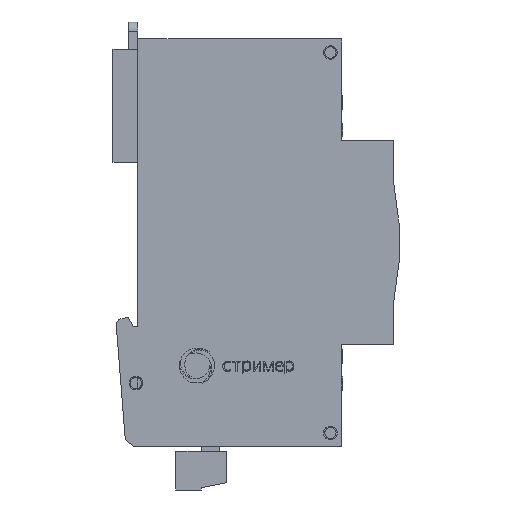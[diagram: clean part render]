
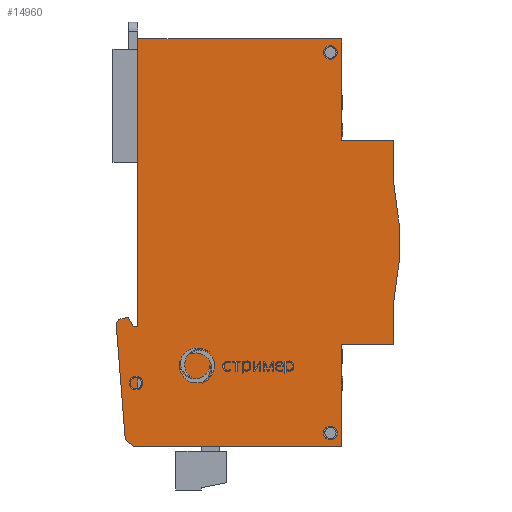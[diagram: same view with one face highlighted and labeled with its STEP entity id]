
A CAD part, front view. The second image highlights one B-rep face of the part: STEP entity #14960.
In plain terms, the highlighted planar face has unit normal (0, -1, 0).
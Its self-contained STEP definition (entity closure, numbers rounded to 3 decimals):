
#13671=CARTESIAN_POINT('',(-14.5,-13.,45.));
#13672=VERTEX_POINT('',#13671);
#13679=CARTESIAN_POINT('',(30.5,-13.,45.));
#13680=VERTEX_POINT('',#13679);
#13681=CARTESIAN_POINT('',(-14.5,-13.,45.));
#13682=DIRECTION('',(1.,-0.,-0.));
#13683=VECTOR('',#13682,45.);
#13684=LINE('',#13681,#13683);
#13685=EDGE_CURVE('',#13672,#13680,#13684,.T.);
#13791=CARTESIAN_POINT('',(-14.5,-13.,-18.5));
#13792=VERTEX_POINT('',#13791);
#13799=CARTESIAN_POINT('',(-14.5,-13.,-18.5));
#13800=DIRECTION('',(-0.,-0.,1.));
#13801=VECTOR('',#13800,63.5);
#13802=LINE('',#13799,#13801);
#13803=EDGE_CURVE('',#13792,#13672,#13802,.T.);
#13996=CARTESIAN_POINT('',(-15.5,-13.,-45.));
#13997=VERTEX_POINT('',#13996);
#14004=CARTESIAN_POINT('',(-17.29,-13.,-43.498));
#14005=VERTEX_POINT('',#14004);
#14006=CARTESIAN_POINT('',(-15.5,-13.,-45.));
#14007=DIRECTION('',(-0.766,-0.,0.643));
#14008=VECTOR('',#14007,2.337);
#14009=LINE('',#14006,#14008);
#14010=EDGE_CURVE('',#13997,#14005,#14009,.T.);
#14035=CARTESIAN_POINT('',(-19.273,-13.,-18.306));
#14036=VERTEX_POINT('',#14035);
#14037=CARTESIAN_POINT('',(-17.29,-13.,-43.498));
#14038=DIRECTION('',(-0.078,-0.,0.997));
#14039=VECTOR('',#14038,25.27);
#14040=LINE('',#14037,#14039);
#14041=EDGE_CURVE('',#14005,#14036,#14040,.T.);
#14067=CARTESIAN_POINT('',(-17.999,-13.,-16.704));
#14068=VERTEX_POINT('',#14067);
#14069=CARTESIAN_POINT('',(-17.777,-13.,-18.188));
#14070=DIRECTION('',(0.,1.,0.));
#14071=DIRECTION('',(0.,-0.,1.));
#14072=AXIS2_PLACEMENT_3D('',#14069,#14070,#14071);
#14073=CIRCLE('',#14072,1.5);
#14074=EDGE_CURVE('',#14036,#14068,#14073,.T.);
#14099=CARTESIAN_POINT('',(-16.632,-13.,-16.5));
#14100=VERTEX_POINT('',#14099);
#14101=CARTESIAN_POINT('',(-17.999,-13.,-16.704));
#14102=DIRECTION('',(0.989,-0.,0.148));
#14103=VECTOR('',#14102,1.383);
#14104=LINE('',#14101,#14103);
#14105=EDGE_CURVE('',#14068,#14100,#14104,.T.);
#14130=CARTESIAN_POINT('',(-15.5,-13.,-18.5));
#14131=VERTEX_POINT('',#14130);
#14132=CARTESIAN_POINT('',(-16.632,-13.,-16.5));
#14133=DIRECTION('',(0.492,0.,-0.87));
#14134=VECTOR('',#14133,2.298);
#14135=LINE('',#14132,#14134);
#14136=EDGE_CURVE('',#14100,#14131,#14135,.T.);
#14183=CARTESIAN_POINT('',(-15.5,-13.,-18.5));
#14184=DIRECTION('',(1.,-0.,-0.));
#14185=VECTOR('',#14184,1.);
#14186=LINE('',#14183,#14185);
#14187=EDGE_CURVE('',#14131,#13792,#14186,.T.);
#14286=CARTESIAN_POINT('',(30.5,-13.,22.5));
#14287=VERTEX_POINT('',#14286);
#14288=CARTESIAN_POINT('',(30.5,-13.,45.));
#14289=DIRECTION('',(-0.,0.,-1.));
#14290=VECTOR('',#14289,22.5);
#14291=LINE('',#14288,#14290);
#14292=EDGE_CURVE('',#13680,#14287,#14291,.T.);
#14317=CARTESIAN_POINT('',(42.,-13.,22.5));
#14318=VERTEX_POINT('',#14317);
#14319=CARTESIAN_POINT('',(30.5,-13.,22.5));
#14320=DIRECTION('',(1.,-0.,-0.));
#14321=VECTOR('',#14320,11.5);
#14322=LINE('',#14319,#14321);
#14323=EDGE_CURVE('',#14287,#14318,#14322,.T.);
#14348=CARTESIAN_POINT('',(42.,-13.,13.));
#14349=VERTEX_POINT('',#14348);
#14350=CARTESIAN_POINT('',(42.,-13.,22.5));
#14351=DIRECTION('',(-0.,0.,-1.));
#14352=VECTOR('',#14351,9.5);
#14353=LINE('',#14350,#14352);
#14354=EDGE_CURVE('',#14318,#14349,#14353,.T.);
#14380=CARTESIAN_POINT('',(42.,-13.,-13.));
#14381=VERTEX_POINT('',#14380);
#14382=CARTESIAN_POINT('',(-21.707,-13.,-0.));
#14383=DIRECTION('',(0.,1.,0.));
#14384=DIRECTION('',(0.,-0.,1.));
#14385=AXIS2_PLACEMENT_3D('',#14382,#14383,#14384);
#14386=CIRCLE('',#14385,65.02);
#14387=EDGE_CURVE('',#14349,#14381,#14386,.T.);
#14412=CARTESIAN_POINT('',(42.,-13.,-22.5));
#14413=VERTEX_POINT('',#14412);
#14414=CARTESIAN_POINT('',(42.,-13.,-13.));
#14415=DIRECTION('',(-0.,0.,-1.));
#14416=VECTOR('',#14415,9.5);
#14417=LINE('',#14414,#14416);
#14418=EDGE_CURVE('',#14381,#14413,#14417,.T.);
#14443=CARTESIAN_POINT('',(30.5,-13.,-22.5));
#14444=VERTEX_POINT('',#14443);
#14445=CARTESIAN_POINT('',(42.,-13.,-22.5));
#14446=DIRECTION('',(-1.,-0.,-0.));
#14447=VECTOR('',#14446,11.5);
#14448=LINE('',#14445,#14447);
#14449=EDGE_CURVE('',#14413,#14444,#14448,.T.);
#14554=CARTESIAN_POINT('',(30.5,-13.,-45.));
#14555=VERTEX_POINT('',#14554);
#14556=CARTESIAN_POINT('',(30.5,-13.,-22.5));
#14557=DIRECTION('',(-0.,0.,-1.));
#14558=VECTOR('',#14557,22.5);
#14559=LINE('',#14556,#14558);
#14560=EDGE_CURVE('',#14444,#14555,#14559,.T.);
#14587=CARTESIAN_POINT('',(-14.5,-13.,-32.434));
#14588=VERTEX_POINT('',#14587);
#14595=CARTESIAN_POINT('',(-14.5,-13.,-29.566));
#14596=VERTEX_POINT('',#14595);
#14597=CARTESIAN_POINT('',(-14.94,-13.,-31.));
#14598=DIRECTION('',(0.,1.,0.));
#14599=DIRECTION('',(0.,-0.,1.));
#14600=AXIS2_PLACEMENT_3D('',#14597,#14598,#14599);
#14601=CIRCLE('',#14600,1.5);
#14602=EDGE_CURVE('',#14596,#14588,#14601,.T.);
#14618=CARTESIAN_POINT('',(28.,-13.,-40.5));
#14619=VERTEX_POINT('',#14618);
#14620=CARTESIAN_POINT('',(26.5,-13.,-42.));
#14621=VERTEX_POINT('',#14620);
#14622=CARTESIAN_POINT('',(28.,-13.,-42.));
#14623=DIRECTION('',(0.,1.,0.));
#14624=DIRECTION('',(0.,-0.,1.));
#14625=AXIS2_PLACEMENT_3D('',#14622,#14623,#14624);
#14626=CIRCLE('',#14625,1.5);
#14627=EDGE_CURVE('',#14619,#14621,#14626,.T.);
#14629=CARTESIAN_POINT('',(28.,-13.,-42.));
#14630=DIRECTION('',(0.,1.,0.));
#14631=DIRECTION('',(0.,-0.,1.));
#14632=AXIS2_PLACEMENT_3D('',#14629,#14630,#14631);
#14633=CIRCLE('',#14632,1.5);
#14634=EDGE_CURVE('',#14621,#14619,#14633,.T.);
#14664=CARTESIAN_POINT('',(28.,-13.,43.5));
#14665=VERTEX_POINT('',#14664);
#14666=CARTESIAN_POINT('',(26.5,-13.,42.));
#14667=VERTEX_POINT('',#14666);
#14668=CARTESIAN_POINT('',(28.,-13.,42.));
#14669=DIRECTION('',(0.,1.,0.));
#14670=DIRECTION('',(0.,-0.,1.));
#14671=AXIS2_PLACEMENT_3D('',#14668,#14669,#14670);
#14672=CIRCLE('',#14671,1.5);
#14673=EDGE_CURVE('',#14665,#14667,#14672,.T.);
#14675=CARTESIAN_POINT('',(28.,-13.,42.));
#14676=DIRECTION('',(0.,1.,0.));
#14677=DIRECTION('',(0.,-0.,1.));
#14678=AXIS2_PLACEMENT_3D('',#14675,#14676,#14677);
#14679=CIRCLE('',#14678,1.5);
#14680=EDGE_CURVE('',#14667,#14665,#14679,.T.);
#14896=CARTESIAN_POINT('',(30.5,-13.,-45.));
#14897=DIRECTION('',(-1.,-0.,-0.));
#14898=VECTOR('',#14897,46.);
#14899=LINE('',#14896,#14898);
#14900=EDGE_CURVE('',#14555,#13997,#14899,.T.);
#14920=CARTESIAN_POINT('',(0.,-13.,-0.));
#14921=DIRECTION('',(0.,1.,0.));
#14922=DIRECTION('',(0.,0.,-1.));
#14923=AXIS2_PLACEMENT_3D('',#14920,#14921,#14922);
#14924=PLANE('',#14923);
#14925=ORIENTED_EDGE('',*,*,#14602,.T.);
#14926=CARTESIAN_POINT('',(-14.5,-13.,-29.566));
#14927=DIRECTION('',(0.,0.,-1.));
#14928=VECTOR('',#14927,2.868);
#14929=LINE('',#14926,#14928);
#14930=EDGE_CURVE('',#14596,#14588,#14929,.T.);
#14931=ORIENTED_EDGE('',*,*,#14930,.F.);
#14932=EDGE_LOOP('',(#14925,#14931));
#14933=FACE_BOUND('',#14932,.T.);
#14934=ORIENTED_EDGE('',*,*,#14187,.F.);
#14935=ORIENTED_EDGE('',*,*,#14136,.F.);
#14936=ORIENTED_EDGE('',*,*,#14105,.F.);
#14937=ORIENTED_EDGE('',*,*,#14074,.F.);
#14938=ORIENTED_EDGE('',*,*,#14041,.F.);
#14939=ORIENTED_EDGE('',*,*,#14010,.F.);
#14940=ORIENTED_EDGE('',*,*,#14900,.F.);
#14941=ORIENTED_EDGE('',*,*,#14560,.F.);
#14942=ORIENTED_EDGE('',*,*,#14449,.F.);
#14943=ORIENTED_EDGE('',*,*,#14418,.F.);
#14944=ORIENTED_EDGE('',*,*,#14387,.F.);
#14945=ORIENTED_EDGE('',*,*,#14354,.F.);
#14946=ORIENTED_EDGE('',*,*,#14323,.F.);
#14947=ORIENTED_EDGE('',*,*,#14292,.F.);
#14948=ORIENTED_EDGE('',*,*,#13685,.F.);
#14949=ORIENTED_EDGE('',*,*,#13803,.F.);
#14950=EDGE_LOOP('',(#14934,#14935,#14936,#14937,#14938,#14939,#14940,#14941,#14942,#14943,#14944,#14945,#14946,#14947,#14948,#14949));
#14951=FACE_BOUND('',#14950,.T.);
#14952=ORIENTED_EDGE('',*,*,#14680,.T.);
#14953=ORIENTED_EDGE('',*,*,#14673,.T.);
#14954=EDGE_LOOP('',(#14952,#14953));
#14955=FACE_BOUND('',#14954,.T.);
#14956=ORIENTED_EDGE('',*,*,#14634,.T.);
#14957=ORIENTED_EDGE('',*,*,#14627,.T.);
#14958=EDGE_LOOP('',(#14956,#14957));
#14959=FACE_BOUND('',#14958,.T.);
#14960=ADVANCED_FACE('',(#14933,#14951,#14955,#14959),#14924,.F.);
